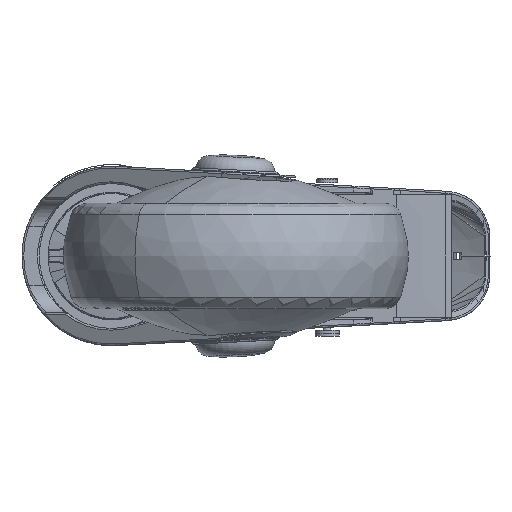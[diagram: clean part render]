
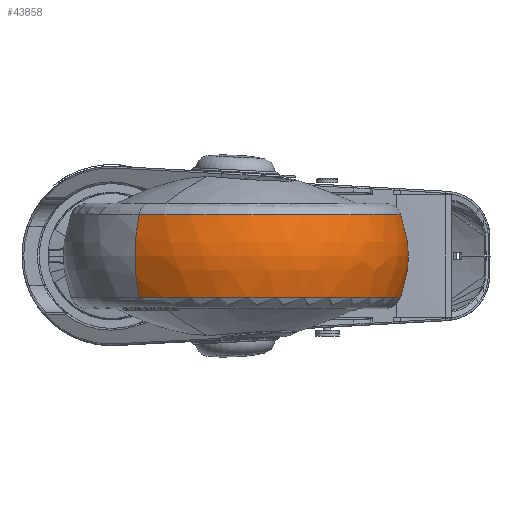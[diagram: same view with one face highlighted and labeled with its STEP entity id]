
A CAD part, front view. The second image highlights one B-rep face of the part: STEP entity #43858.
In plain terms, the highlighted free-form (B-spline) face has degree [3, 3] with [7, 4] control points.
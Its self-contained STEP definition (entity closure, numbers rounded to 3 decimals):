
#37736=CARTESIAN_POINT('',(36.,-69.8,11.958));
#37737=DIRECTION('',(0.,0.,1.));
#37738=DIRECTION('',(-0.585,-0.811,0.));
#37739=AXIS2_PLACEMENT_3D('',#37736,#37737,#37738);
#37741=CARTESIAN_POINT('',(44.777,-57.636,0.));
#37742=DIRECTION('',(0.811,-0.585,0.));
#37743=DIRECTION('',(0.55,0.762,-0.342));
#37744=AXIS2_PLACEMENT_3D('',#37741,#37742,#37743);
#37746=CARTESIAN_POINT('',(36.,-69.8,-11.958));
#37747=DIRECTION('',(0.,0.,1.));
#37748=DIRECTION('',(-0.585,-0.811,0.));
#37749=AXIS2_PLACEMENT_3D('',#37746,#37747,#37748);
#37751=CARTESIAN_POINT('',(27.223,-81.964,0.));
#37752=DIRECTION('',(-0.811,0.585,0.));
#37753=DIRECTION('',(-0.55,-0.762,-0.342));
#37754=AXIS2_PLACEMENT_3D('',#37751,#37752,#37753);
#41798=CARTESIAN_POINT('',(64.024,-30.961,
11.958));
#41799=CARTESIAN_POINT('',(7.976,-108.639,
11.958));
#41800=VERTEX_POINT('',#41798);
#41801=VERTEX_POINT('',#41799);
#41802=CARTESIAN_POINT('',(64.024,-30.961,
-11.958));
#41803=CARTESIAN_POINT('',(7.976,-108.639,
-11.958));
#41804=VERTEX_POINT('',#41802);
#41805=VERTEX_POINT('',#41803);
#43821=CARTESIAN_POINT('',(61.439,-29.422,
12.416));
#43822=CARTESIAN_POINT('',(63.075,-26.825,
4.326));
#43823=CARTESIAN_POINT('',(63.075,-26.825,
-4.326));
#43824=CARTESIAN_POINT('',(61.439,-29.422,
-12.416));
#43825=CARTESIAN_POINT('',(86.288,-45.077,
12.416));
#43826=CARTESIAN_POINT('',(89.522,-43.487,
4.326));
#43827=CARTESIAN_POINT('',(89.522,-43.487,
-4.326));
#43828=CARTESIAN_POINT('',(86.288,-45.077,
-12.416));
#43829=CARTESIAN_POINT('',(91.886,-73.908,
12.416));
#43830=CARTESIAN_POINT('',(95.48,-74.172,
4.326));
#43831=CARTESIAN_POINT('',(95.48,-74.172,
-4.326));
#43832=CARTESIAN_POINT('',(91.886,-73.908,
-12.416));
#43833=CARTESIAN_POINT('',(74.701,-97.724,
12.416));
#43834=CARTESIAN_POINT('',(77.19,-99.52,
4.326));
#43835=CARTESIAN_POINT('',(77.19,-99.52,
-4.326));
#43836=CARTESIAN_POINT('',(74.701,-97.724,
-12.416));
#43837=CARTESIAN_POINT('',(57.517,-121.541,
12.416));
#43838=CARTESIAN_POINT('',(58.9,-124.869,
4.326));
#43839=CARTESIAN_POINT('',(58.9,-124.869,
-4.326));
#43840=CARTESIAN_POINT('',(57.517,-121.541,
-12.416));
#43841=CARTESIAN_POINT('',(28.391,-125.318,
12.416));
#43842=CARTESIAN_POINT('',(27.902,-128.888,
4.326));
#43843=CARTESIAN_POINT('',(27.902,-128.888,
-4.326));
#43844=CARTESIAN_POINT('',(28.391,-125.318,
-12.416));
#43845=CARTESIAN_POINT('',(5.701,-106.671,
12.416));
#43846=CARTESIAN_POINT('',(3.752,-109.043,
4.326));
#43847=CARTESIAN_POINT('',(3.752,-109.043,
-4.326));
#43848=CARTESIAN_POINT('',(5.701,-106.671,
-12.416));
#43849=(BOUNDED_SURFACE()B_SPLINE_SURFACE(3,3,((#43821,#43822,#43823,#43824),(
#43825,#43826,#43827,#43828),(#43829,#43830,#43831,#43832),(#43833,#43834,
#43835,#43836),(#43837,#43838,#43839,#43840),(#43841,#43842,#43843,#43844),(
#43845,#43846,#43847,#43848)),.UNSPECIFIED.,.F.,.F.,.F.)B_SPLINE_SURFACE_WITH_KNOTS((4,3,4),(4,4),(0.,1.,2.),(0.,1.),.UNSPECIFIED.)GEOMETRIC_REPRESENTATION_ITEM()RATIONAL_B_SPLINE_SURFACE(((1.227,1.174,
1.174,1.227),(0.969,0.927,
0.927,0.969),(0.969,0.927,
0.927,0.969),(1.227,1.174,
1.174,1.227),(0.969,0.927,
0.927,0.969),(0.969,0.927,
0.927,0.969),(1.227,1.174,
1.174,1.227)))REPRESENTATION_ITEM('')SURFACE());
#43851=ORIENTED_EDGE('',*,*,#43850,.T.);
#43852=ORIENTED_EDGE('',*,*,#43640,.F.);
#43854=ORIENTED_EDGE('',*,*,#43853,.F.);
#43855=ORIENTED_EDGE('',*,*,#43636,.T.);
#43856=EDGE_LOOP('',(#43851,#43852,#43854,#43855));
#43857=FACE_OUTER_BOUND('',#43856,.F.);
#37740=CIRCLE('',#37739,47.894);
#37745=CIRCLE('',#37744,35.);
#37750=CIRCLE('',#37749,47.894);
#37755=CIRCLE('',#37754,35.);
#43636=EDGE_CURVE('',#41805,#41801,#37755,.T.);
#43640=EDGE_CURVE('',#41804,#41800,#37745,.T.);
#43850=EDGE_CURVE('',#41801,#41800,#37740,.T.);
#43853=EDGE_CURVE('',#41805,#41804,#37750,.T.);
#43858=ADVANCED_FACE('',(#43857),#43849,.T.);
